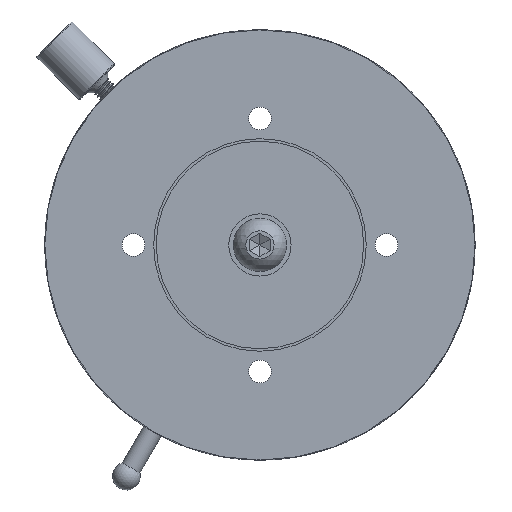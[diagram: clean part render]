
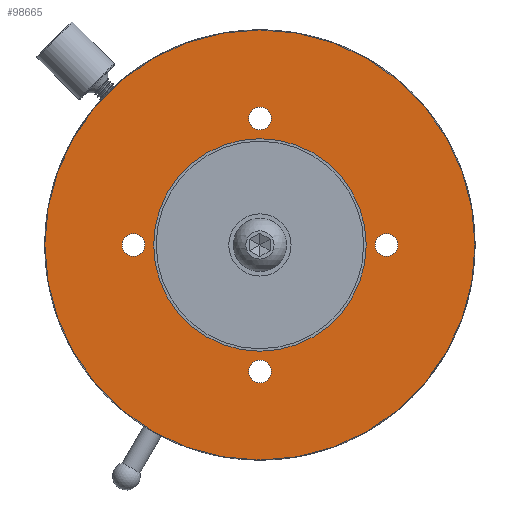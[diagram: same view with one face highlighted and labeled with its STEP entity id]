
A CAD part, front view. The second image highlights one B-rep face of the part: STEP entity #98665.
In plain terms, the highlighted planar face has unit normal (0, -1, 0).
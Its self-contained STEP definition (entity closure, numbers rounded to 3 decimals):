
#7685 = DIRECTION ( 'NONE',  ( 0., 0., 1. ) ) ;
#8471 = EDGE_LOOP ( 'NONE', ( #82646 ) ) ;
#9614 = CIRCLE ( 'NONE', #25101, 42.5 ) ;
#16270 = FACE_BOUND ( 'NONE', #40731, .T. ) ;
#21251 = CARTESIAN_POINT ( 'NONE',  ( 25., 0., 0. ) ) ;
#22275 = EDGE_CURVE ( 'NONE', #159362, #159362, #149761, .T. ) ;
#24322 = EDGE_LOOP ( 'NONE', ( #162014 ) ) ;
#25101 = AXIS2_PLACEMENT_3D ( 'NONE', #40589, #175994, #157653 ) ;
#27017 = FACE_BOUND ( 'NONE', #8471, .T. ) ;
#28928 = FACE_BOUND ( 'NONE', #117819, .T. ) ;
#29892 = CARTESIAN_POINT ( 'NONE',  ( 0., 0., 0. ) ) ;
#30618 = VERTEX_POINT ( 'NONE', #44193 ) ;
#37064 = CIRCLE ( 'NONE', #105119, 21. ) ;
#40589 = CARTESIAN_POINT ( 'NONE',  ( 0., 0., 0. ) ) ;
#40715 = ORIENTED_EDGE ( 'NONE', *, *, #160642, .T. ) ;
#40731 = EDGE_LOOP ( 'NONE', ( #95802 ) ) ;
#41152 = EDGE_CURVE ( 'NONE', #30618, #30618, #132819, .T. ) ;
#42485 = FACE_OUTER_BOUND ( 'NONE', #110466, .T. ) ;
#43079 = DIRECTION ( 'NONE',  ( 0., 0., 1. ) ) ;
#43217 = AXIS2_PLACEMENT_3D ( 'NONE', #21251, #80284, #7685 ) ;
#44193 = CARTESIAN_POINT ( 'NONE',  ( 25., 0., 2.25 ) ) ;
#47360 = EDGE_CURVE ( 'NONE', #134096, #134096, #9614, .T. ) ;
#47467 = AXIS2_PLACEMENT_3D ( 'NONE', #29892, #191466, #177890 ) ;
#67736 = CARTESIAN_POINT ( 'NONE',  ( 0., 0., -25. ) ) ;
#70412 = DIRECTION ( 'NONE',  ( 0., 1., 0. ) ) ;
#70441 = VERTEX_POINT ( 'NONE', #161334 ) ;
#76062 = CARTESIAN_POINT ( 'NONE',  ( 0., 0., 42.5 ) ) ;
#80097 = CARTESIAN_POINT ( 'NONE',  ( 0., 0., 0. ) ) ;
#80284 = DIRECTION ( 'NONE',  ( 0., 1., 0. ) ) ;
#82227 = DIRECTION ( 'NONE',  ( 0., 0., 1. ) ) ;
#82646 = ORIENTED_EDGE ( 'NONE', *, *, #185623, .F. ) ;
#84148 = DIRECTION ( 'NONE',  ( 0., 1., 0. ) ) ;
#84873 = CARTESIAN_POINT ( 'NONE',  ( 0., 0., 27.25 ) ) ;
#85678 = DIRECTION ( 'NONE',  ( 0., 1., 0. ) ) ;
#88897 = FACE_BOUND ( 'NONE', #183654, .T. ) ;
#95802 = ORIENTED_EDGE ( 'NONE', *, *, #41152, .T. ) ;
#98665 = ADVANCED_FACE ( 'NONE', ( #27017, #88897, #159566, #28928, #16270, #42485 ), #163367, .F. ) ;
#105119 = AXIS2_PLACEMENT_3D ( 'NONE', #80097, #137157, #153610 ) ;
#110466 = EDGE_LOOP ( 'NONE', ( #175886 ) ) ;
#117819 = EDGE_LOOP ( 'NONE', ( #189805 ) ) ;
#123670 = CARTESIAN_POINT ( 'NONE',  ( 0., 0., -22.75 ) ) ;
#132819 = CIRCLE ( 'NONE', #43217, 2.25 ) ;
#134096 = VERTEX_POINT ( 'NONE', #76062 ) ;
#134947 = EDGE_CURVE ( 'NONE', #179859, #179859, #190016, .T. ) ;
#137157 = DIRECTION ( 'NONE',  ( 0., -1., 0. ) ) ;
#140490 = AXIS2_PLACEMENT_3D ( 'NONE', #172966, #70412, #145783 ) ;
#145783 = DIRECTION ( 'NONE',  ( 0., 0., 1. ) ) ;
#149761 = CIRCLE ( 'NONE', #186857, 2.25 ) ;
#153610 = DIRECTION ( 'NONE',  ( 0., 0., -1. ) ) ;
#154041 = CIRCLE ( 'NONE', #178782, 2.25 ) ;
#154632 = VERTEX_POINT ( 'NONE', #123670 ) ;
#157653 = DIRECTION ( 'NONE',  ( 0., 0., 1. ) ) ;
#159362 = VERTEX_POINT ( 'NONE', #84873 ) ;
#159566 = FACE_BOUND ( 'NONE', #24322, .T. ) ;
#160642 = EDGE_CURVE ( 'NONE', #154632, #154632, #154041, .T. ) ;
#161334 = CARTESIAN_POINT ( 'NONE',  ( 0., 0., -21. ) ) ;
#162014 = ORIENTED_EDGE ( 'NONE', *, *, #22275, .T. ) ;
#163367 = PLANE ( 'NONE',  #47467 ) ;
#172966 = CARTESIAN_POINT ( 'NONE',  ( -25., 0., 0. ) ) ;
#175634 = CARTESIAN_POINT ( 'NONE',  ( 0., 0., 25. ) ) ;
#175886 = ORIENTED_EDGE ( 'NONE', *, *, #47360, .F. ) ;
#175994 = DIRECTION ( 'NONE',  ( 0., 1., 0. ) ) ;
#177890 = DIRECTION ( 'NONE',  ( 0., 0., 1. ) ) ;
#177966 = CARTESIAN_POINT ( 'NONE',  ( -25., 0., 2.25 ) ) ;
#178782 = AXIS2_PLACEMENT_3D ( 'NONE', #67736, #84148, #82227 ) ;
#179859 = VERTEX_POINT ( 'NONE', #177966 ) ;
#183654 = EDGE_LOOP ( 'NONE', ( #40715 ) ) ;
#185623 = EDGE_CURVE ( 'NONE', #70441, #70441, #37064, .T. ) ;
#186857 = AXIS2_PLACEMENT_3D ( 'NONE', #175634, #85678, #43079 ) ;
#189805 = ORIENTED_EDGE ( 'NONE', *, *, #134947, .T. ) ;
#190016 = CIRCLE ( 'NONE', #140490, 2.25 ) ;
#191466 = DIRECTION ( 'NONE',  ( 0., 1., 0. ) ) ;
